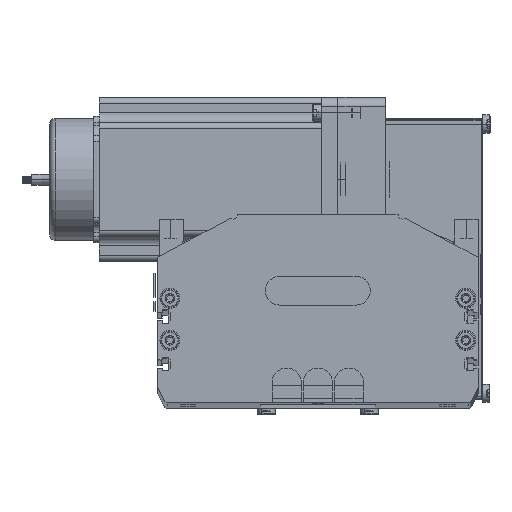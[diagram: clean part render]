
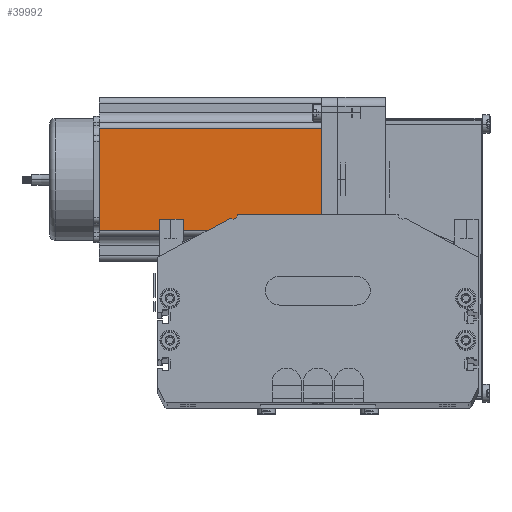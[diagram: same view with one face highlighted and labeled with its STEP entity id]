
A CAD part, top view. The second image highlights one B-rep face of the part: STEP entity #39992.
In plain terms, the highlighted planar face has unit normal (0, 0, 1) as drawn and (0, -1, 0) by its records, which use the part's own axes.
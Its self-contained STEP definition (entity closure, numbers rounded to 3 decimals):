
#39694 = EDGE_CURVE ( 'NONE', #39997, #39851, #46861, .T. ) ;
#39695 = ORIENTED_EDGE ( 'NONE', *, *, #39694, .T. ) ;
#39707 = EDGE_CURVE ( 'NONE', #39997, #40022, #46814, .T. ) ;
#39727 = VERTEX_POINT ( 'NONE', #47166 ) ;
#39824 = ORIENTED_EDGE ( 'NONE', *, *, #40033, .T. ) ;
#39851 = VERTEX_POINT ( 'NONE', #47300 ) ;
#39940 = EDGE_LOOP ( 'NONE', ( #40034, #39824, #40011, #39695 ) ) ;
#39955 = EDGE_CURVE ( 'NONE', #39851, #39727, #48220, .T. ) ;
#39992 = ADVANCED_FACE ( 'NONE', ( #48279 ), #48346, .F. ) ;
#39997 = VERTEX_POINT ( 'NONE', #48285 ) ;
#40011 = ORIENTED_EDGE ( 'NONE', *, *, #39707, .F. ) ;
#40022 = VERTEX_POINT ( 'NONE', #48413 ) ;
#40033 = EDGE_CURVE ( 'NONE', #39727, #40022, #48531, .T. ) ;
#40034 = ORIENTED_EDGE ( 'NONE', *, *, #39955, .T. ) ;
#46811 = DIRECTION ( 'NONE',  ( 1., 0., 0. ) ) ;
#46812 = VECTOR ( 'NONE', #46811, 1000. ) ;
#46813 = CARTESIAN_POINT ( 'NONE',  ( 0., 0., 116.5 ) ) ;
#46814 = LINE ( 'NONE', #46813, #46812 ) ;
#46856 = VECTOR ( 'NONE', #46954, 1000. ) ;
#46860 = CARTESIAN_POINT ( 'NONE',  ( 16.16, 0., 116.5 ) ) ;
#46861 = LINE ( 'NONE', #46860, #46856 ) ;
#46954 = DIRECTION ( 'NONE',  ( 0., 0., -1. ) ) ;
#47166 = CARTESIAN_POINT ( 'NONE',  ( 69.74, 0., 0. ) ) ;
#47300 = CARTESIAN_POINT ( 'NONE',  ( 16.16, 0., 0. ) ) ;
#48205 = DIRECTION ( 'NONE',  ( 1., 0., 0. ) ) ;
#48219 = CARTESIAN_POINT ( 'NONE',  ( 0., 0., 0. ) ) ;
#48220 = LINE ( 'NONE', #48219, #48256 ) ;
#48256 = VECTOR ( 'NONE', #48205, 1000. ) ;
#48279 = FACE_OUTER_BOUND ( 'NONE', #39940, .T. ) ;
#48285 = CARTESIAN_POINT ( 'NONE',  ( 16.16, 0., 116.5 ) ) ;
#48290 = DIRECTION ( 'NONE',  ( 0., 0., 1. ) ) ;
#48343 = CARTESIAN_POINT ( 'NONE',  ( 0., 0., 116.5 ) ) ;
#48346 = PLANE ( 'NONE',  #48426 ) ;
#48383 = DIRECTION ( 'NONE',  ( 0., 1., 0. ) ) ;
#48413 = CARTESIAN_POINT ( 'NONE',  ( 69.74, 0., 116.5 ) ) ;
#48426 = AXIS2_PLACEMENT_3D ( 'NONE', #48343, #48383, #48290 ) ;
#48531 = LINE ( 'NONE', #48719, #48595 ) ;
#48594 = DIRECTION ( 'NONE',  ( 0., 0., 1. ) ) ;
#48595 = VECTOR ( 'NONE', #48594, 1000. ) ;
#48719 = CARTESIAN_POINT ( 'NONE',  ( 69.74, 0., 116.5 ) ) ;
